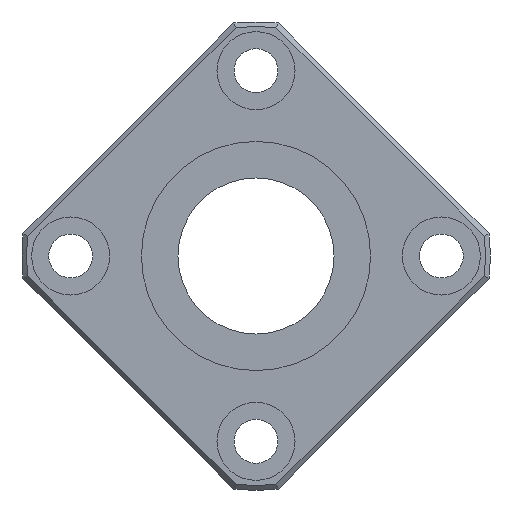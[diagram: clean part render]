
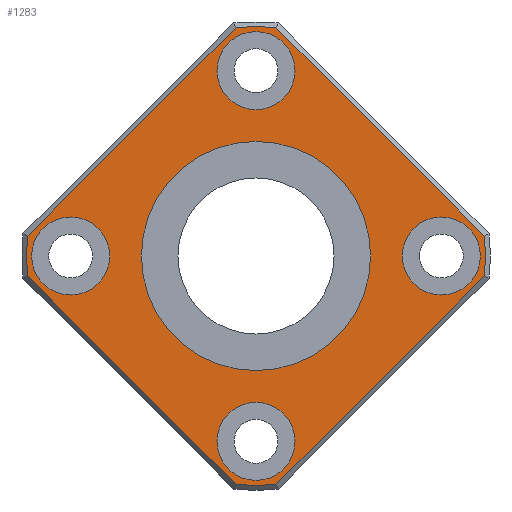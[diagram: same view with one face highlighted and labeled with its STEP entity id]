
A CAD part, left-side view. The second image highlights one B-rep face of the part: STEP entity #1283.
In plain terms, the highlighted planar face has unit normal (-1, 0, 0).
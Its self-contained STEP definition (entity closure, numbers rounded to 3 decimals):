
#859=CARTESIAN_POINT('',(0.0,2.045,-23.411));
#860=VERTEX_POINT('',#859);
#868=CARTESIAN_POINT('',(0.0,23.411,-2.045));
#869=VERTEX_POINT('',#868);
#870=CARTESIAN_POINT('',(0.0,2.045,-23.411));
#871=DIRECTION('',(0.0,0.707,0.707));
#872=VECTOR('',#871,30.216);
#873=LINE('',#870,#872);
#874=EDGE_CURVE('',#860,#869,#873,.T.);
#901=CARTESIAN_POINT('',(0.0,23.411,2.045));
#902=VERTEX_POINT('',#901);
#903=CARTESIAN_POINT('',(0.0,0.0,0.0));
#904=DIRECTION('',(1.0,0.0,0.0));
#905=DIRECTION('',(0.0,0.0,1.0));
#906=AXIS2_PLACEMENT_3D('',#903,#904,#905);
#907=CIRCLE('',#906,23.5);
#908=EDGE_CURVE('',#869,#902,#907,.T.);
#934=CARTESIAN_POINT('',(0.0,2.045,23.411));
#935=VERTEX_POINT('',#934);
#936=CARTESIAN_POINT('',(0.0,23.411,2.045));
#937=DIRECTION('',(0.0,-0.707,0.707));
#938=VECTOR('',#937,30.216);
#939=LINE('',#936,#938);
#940=EDGE_CURVE('',#902,#935,#939,.T.);
#967=CARTESIAN_POINT('',(0.0,-2.045,23.411));
#968=VERTEX_POINT('',#967);
#969=CARTESIAN_POINT('',(0.0,0.0,0.0));
#970=DIRECTION('',(1.0,0.0,0.0));
#971=DIRECTION('',(0.0,0.0,1.0));
#972=AXIS2_PLACEMENT_3D('',#969,#970,#971);
#973=CIRCLE('',#972,23.5);
#974=EDGE_CURVE('',#935,#968,#973,.T.);
#1000=CARTESIAN_POINT('',(0.0,-23.411,2.045));
#1001=VERTEX_POINT('',#1000);
#1002=CARTESIAN_POINT('',(0.0,-2.045,23.411));
#1003=DIRECTION('',(0.0,-0.707,-0.707));
#1004=VECTOR('',#1003,30.216);
#1005=LINE('',#1002,#1004);
#1006=EDGE_CURVE('',#968,#1001,#1005,.T.);
#1033=CARTESIAN_POINT('',(0.0,-23.411,-2.045));
#1034=VERTEX_POINT('',#1033);
#1035=CARTESIAN_POINT('',(0.0,0.0,0.0));
#1036=DIRECTION('',(1.0,0.0,0.0));
#1037=DIRECTION('',(0.0,0.0,1.0));
#1038=AXIS2_PLACEMENT_3D('',#1035,#1036,#1037);
#1039=CIRCLE('',#1038,23.5);
#1040=EDGE_CURVE('',#1001,#1034,#1039,.T.);
#1066=CARTESIAN_POINT('',(0.0,-2.045,-23.411));
#1067=VERTEX_POINT('',#1066);
#1068=CARTESIAN_POINT('',(0.0,-23.411,-2.045));
#1069=DIRECTION('',(0.0,0.707,-0.707));
#1070=VECTOR('',#1069,30.216);
#1071=LINE('',#1068,#1070);
#1072=EDGE_CURVE('',#1034,#1067,#1071,.T.);
#1097=CARTESIAN_POINT('',(0.0,0.0,0.0));
#1098=DIRECTION('',(1.0,0.0,0.0));
#1099=DIRECTION('',(0.0,0.0,-1.0));
#1100=AXIS2_PLACEMENT_3D('',#1097,#1098,#1099);
#1101=CIRCLE('',#1100,23.5);
#1102=EDGE_CURVE('',#1067,#860,#1101,.T.);
#1213=CARTESIAN_POINT('',(0.0,0.0,12.875));
#1214=DIRECTION('',(-1.0,0.0,0.0));
#1215=DIRECTION('',(0.0,0.0,1.0));
#1216=AXIS2_PLACEMENT_3D('',#1213,#1214,#1215);
#1217=PLANE('',#1216);
#1218=ORIENTED_EDGE('',*,*,#874,.F.);
#1219=ORIENTED_EDGE('',*,*,#1102,.F.);
#1220=ORIENTED_EDGE('',*,*,#1072,.F.);
#1221=ORIENTED_EDGE('',*,*,#1040,.F.);
#1222=ORIENTED_EDGE('',*,*,#1006,.F.);
#1223=ORIENTED_EDGE('',*,*,#974,.F.);
#1224=ORIENTED_EDGE('',*,*,#940,.F.);
#1225=ORIENTED_EDGE('',*,*,#908,.F.);
#1226=EDGE_LOOP('',(#1218,#1219,#1220,#1221,#1222,#1223,#1224,#1225));
#1227=FACE_OUTER_BOUND('',#1226,.T.);
#1228=CARTESIAN_POINT('',(0.0,0.0,11.75));
#1229=VERTEX_POINT('',#1228);
#1230=CARTESIAN_POINT('',(0.0,0.0,0.0));
#1231=DIRECTION('',(-1.0,0.0,0.0));
#1232=DIRECTION('',(0.0,0.0,1.0));
#1233=AXIS2_PLACEMENT_3D('',#1230,#1231,#1232);
#1234=CIRCLE('',#1233,11.75);
#1235=EDGE_CURVE('',#1229,#1229,#1234,.T.);
#1236=ORIENTED_EDGE('',*,*,#1235,.F.);
#1237=EDGE_LOOP('',(#1236));
#1238=FACE_BOUND('',#1237,.T.);
#1239=CARTESIAN_POINT('',(0.0,-15.0,0.));
#1240=VERTEX_POINT('',#1239);
#1241=CARTESIAN_POINT('',(0.0,-19.0,0.));
#1242=DIRECTION('',(1.0,0.0,0.0));
#1243=DIRECTION('',(0.0,1.0,0.0));
#1244=AXIS2_PLACEMENT_3D('',#1241,#1242,#1243);
#1245=CIRCLE('',#1244,4.0);
#1246=EDGE_CURVE('',#1240,#1240,#1245,.T.);
#1247=ORIENTED_EDGE('',*,*,#1246,.T.);
#1248=EDGE_LOOP('',(#1247));
#1249=FACE_BOUND('',#1248,.T.);
#1250=CARTESIAN_POINT('',(0.0,23.,0.));
#1251=VERTEX_POINT('',#1250);
#1252=CARTESIAN_POINT('',(0.0,19.0,0.));
#1253=DIRECTION('',(1.0,0.0,0.0));
#1254=DIRECTION('',(0.0,1.0,0.0));
#1255=AXIS2_PLACEMENT_3D('',#1252,#1253,#1254);
#1256=CIRCLE('',#1255,4.0);
#1257=EDGE_CURVE('',#1251,#1251,#1256,.T.);
#1258=ORIENTED_EDGE('',*,*,#1257,.T.);
#1259=EDGE_LOOP('',(#1258));
#1260=FACE_BOUND('',#1259,.T.);
#1261=CARTESIAN_POINT('',(0.0,4.,19.0));
#1262=VERTEX_POINT('',#1261);
#1263=CARTESIAN_POINT('',(0.0,0.,19.0));
#1264=DIRECTION('',(1.0,0.0,0.0));
#1265=DIRECTION('',(0.0,1.0,0.0));
#1266=AXIS2_PLACEMENT_3D('',#1263,#1264,#1265);
#1267=CIRCLE('',#1266,4.0);
#1268=EDGE_CURVE('',#1262,#1262,#1267,.T.);
#1269=ORIENTED_EDGE('',*,*,#1268,.T.);
#1270=EDGE_LOOP('',(#1269));
#1271=FACE_BOUND('',#1270,.T.);
#1272=CARTESIAN_POINT('',(0.0,4.,-19.0));
#1273=VERTEX_POINT('',#1272);
#1274=CARTESIAN_POINT('',(0.0,0.,-19.0));
#1275=DIRECTION('',(1.0,0.0,0.0));
#1276=DIRECTION('',(0.0,1.0,0.0));
#1277=AXIS2_PLACEMENT_3D('',#1274,#1275,#1276);
#1278=CIRCLE('',#1277,4.0);
#1279=EDGE_CURVE('',#1273,#1273,#1278,.T.);
#1280=ORIENTED_EDGE('',*,*,#1279,.T.);
#1281=EDGE_LOOP('',(#1280));
#1282=FACE_BOUND('',#1281,.T.);
#1283=ADVANCED_FACE('',(#1227,#1238,#1249,#1260,#1271,#1282),#1217,.T.);
